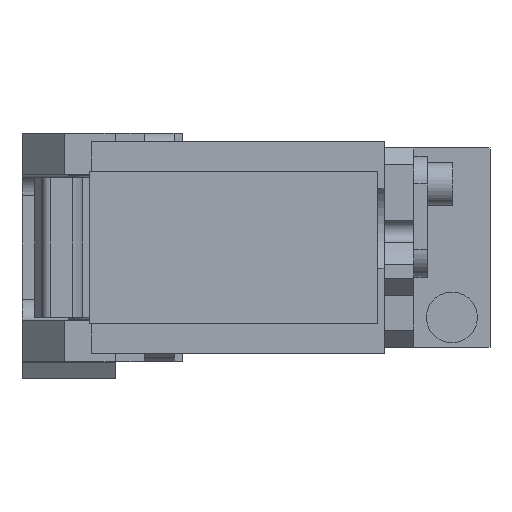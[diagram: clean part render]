
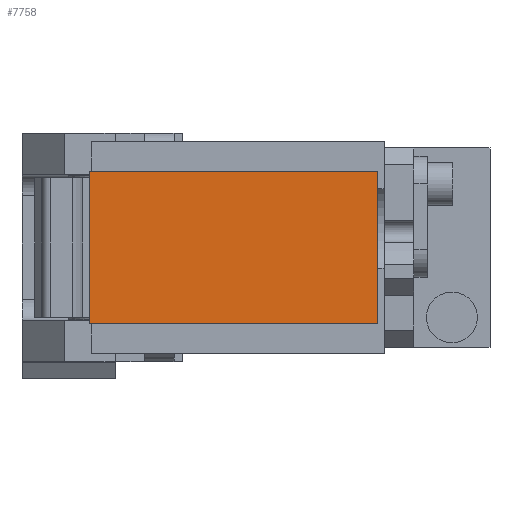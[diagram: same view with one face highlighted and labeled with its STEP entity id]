
A CAD part, front view. The second image highlights one B-rep face of the part: STEP entity #7758.
In plain terms, the highlighted planar face has unit normal (0, -1, 0).
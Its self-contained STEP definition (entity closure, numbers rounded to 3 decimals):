
#464 = CARTESIAN_POINT ( 'NONE',  ( -6., -233., -18. ) ) ;
#546 = EDGE_CURVE ( 'NONE', #1420, #3909, #2205, .T. ) ;
#1420 = VERTEX_POINT ( 'NONE', #13695 ) ;
#2131 = DIRECTION ( 'NONE',  ( 0., 0., 1. ) ) ;
#2205 = LINE ( 'NONE', #7538, #9541 ) ;
#2418 = ORIENTED_EDGE ( 'NONE', *, *, #11841, .T. ) ;
#2646 = LINE ( 'NONE', #9041, #8393 ) ;
#3337 = CARTESIAN_POINT ( 'NONE',  ( -6., -233., 18. ) ) ;
#3378 = ORIENTED_EDGE ( 'NONE', *, *, #12838, .T. ) ;
#3700 = DIRECTION ( 'NONE',  ( 1., 0., 0. ) ) ;
#3909 = VERTEX_POINT ( 'NONE', #7355 ) ;
#4069 = FACE_OUTER_BOUND ( 'NONE', #6458, .T. ) ;
#4416 = EDGE_CURVE ( 'NONE', #11164, #1420, #13439, .T. ) ;
#4668 = DIRECTION ( 'NONE',  ( -1., 0., 0. ) ) ;
#4911 = VERTEX_POINT ( 'NONE', #9189 ) ;
#6458 = EDGE_LOOP ( 'NONE', ( #2418, #9094, #10468, #3378 ) ) ;
#7355 = CARTESIAN_POINT ( 'NONE',  ( 62., -233., 18. ) ) ;
#7538 = CARTESIAN_POINT ( 'NONE',  ( 62., -233., 18. ) ) ;
#7626 = LINE ( 'NONE', #3337, #8804 ) ;
#7758 = ADVANCED_FACE ( 'NONE', ( #4069 ), #9504, .T. ) ;
#8378 = DIRECTION ( 'NONE',  ( 0., 0., -1. ) ) ;
#8393 = VECTOR ( 'NONE', #4668, 1000. ) ;
#8804 = VECTOR ( 'NONE', #11939, 1000. ) ;
#8846 = CARTESIAN_POINT ( 'NONE',  ( 0., -233., 0. ) ) ;
#9041 = CARTESIAN_POINT ( 'NONE',  ( -6., -233., 18. ) ) ;
#9094 = ORIENTED_EDGE ( 'NONE', *, *, #4416, .T. ) ;
#9189 = CARTESIAN_POINT ( 'NONE',  ( -6., -233., 18. ) ) ;
#9504 = PLANE ( 'NONE',  #10969 ) ;
#9541 = VECTOR ( 'NONE', #2131, 1000. ) ;
#10265 = CARTESIAN_POINT ( 'NONE',  ( -6., -233., -18. ) ) ;
#10468 = ORIENTED_EDGE ( 'NONE', *, *, #546, .T. ) ;
#10969 = AXIS2_PLACEMENT_3D ( 'NONE', #8846, #13150, #8378 ) ;
#11042 = VECTOR ( 'NONE', #3700, 1000. ) ;
#11164 = VERTEX_POINT ( 'NONE', #464 ) ;
#11841 = EDGE_CURVE ( 'NONE', #4911, #11164, #7626, .T. ) ;
#11939 = DIRECTION ( 'NONE',  ( 0., 0., -1. ) ) ;
#12838 = EDGE_CURVE ( 'NONE', #3909, #4911, #2646, .T. ) ;
#13150 = DIRECTION ( 'NONE',  ( 0., -1., 0. ) ) ;
#13439 = LINE ( 'NONE', #10265, #11042 ) ;
#13695 = CARTESIAN_POINT ( 'NONE',  ( 62., -233., -18. ) ) ;
